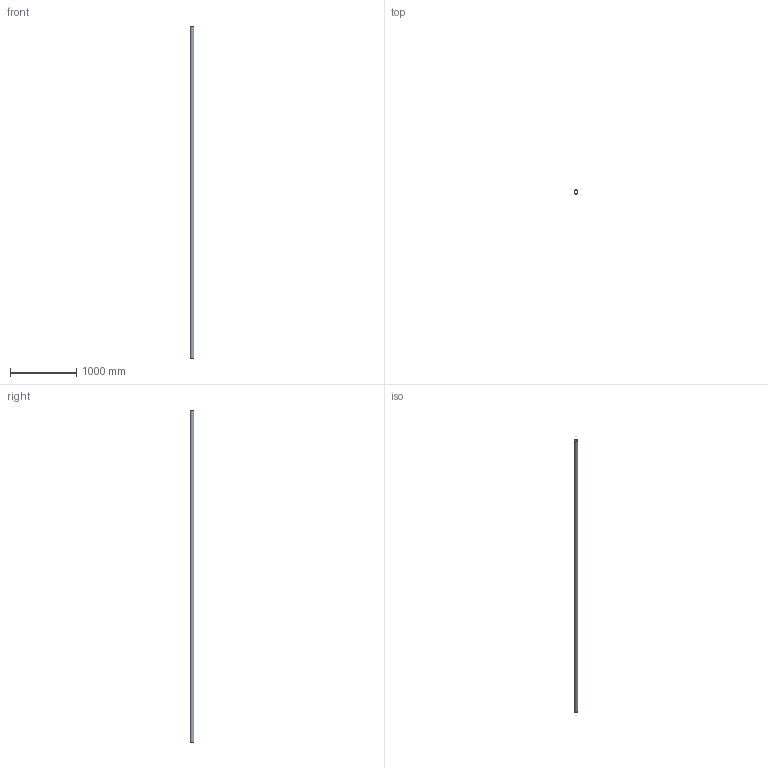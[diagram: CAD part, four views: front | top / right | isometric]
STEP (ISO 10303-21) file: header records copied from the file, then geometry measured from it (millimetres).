
FILE_DESCRIPTION(/* description */ (''),/* implementation_level */ '2;1');
FILE_NAME(/* name */ 'C:\Geberit-Teile\Export 2019\379.000.16.0\stp\363000.stp',/* time_stamp */ '2019-06-06T10:48:19+02:00',/* author */ ('JANAN'),/* organization */ (''),/* preprocessor_version */ 'ST-DEVELOPER v16.13',/* originating_system */ 'Autodesk Inventor 2018',/* authorisation */ '');
FILE_SCHEMA (('AUTOMOTIVE_DESIGN { 1 0 10303 214 3 1 1 }'));
Length unit declared in the file: millimetre
Products named in the file (1): Rohr PE-HD d56x3 L5000
Bounding box: 56 x 56 x 5000 mm (x, y, z)
Volume: 2497566.2 mm3; surface area: 1666043.1 mm2
Topology: 1 solids, 1 shells, 4 faces, 6 edges, 4 vertices
Faces by surface type: cylinder 2, plane 2
Full cylindrical faces by diameter (mm): 50 x1, 56 x1
Entity records: 131 total; most frequent: DIRECTION 18, CARTESIAN_POINT 13, AXIS2_PLACEMENT_3D 9, EDGE_LOOP 8, ORIENTED_EDGE 8, STYLED_ITEM 5, FACE_BOUND 4, FACE_OUTER_BOUND 4
